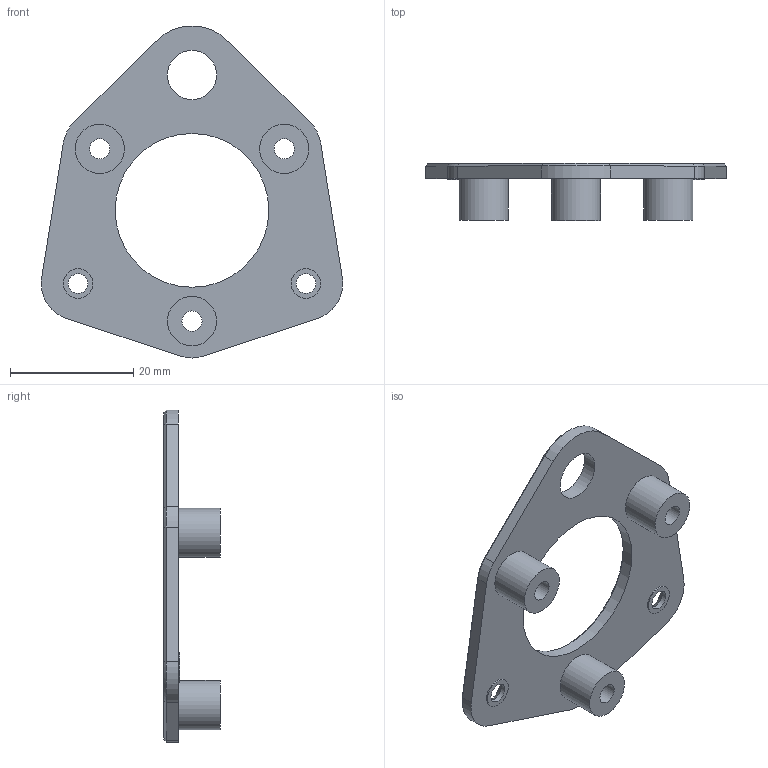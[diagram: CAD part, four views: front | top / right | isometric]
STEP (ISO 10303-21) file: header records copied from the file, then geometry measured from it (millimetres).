
FILE_DESCRIPTION(/* description */ (''),/* implementation_level */ '2;1');
FILE_NAME(/* name */ '\\192.168.3.8\kumagai\Develop\CAD\NakataOmni\DriveUnitR3\CarrierPlate.stp',/* time_stamp */ '2024-05-21T14:17:43+09:00',/* author */ ('kumagai'),/* organization */ (''),/* preprocessor_version */ 'ST-DEVELOPER v19',/* originating_system */ 'Autodesk Inventor 2023',/* authorisation */ '');
FILE_SCHEMA (('AUTOMOTIVE_DESIGN { 1 0 10303 214 3 1 1 }'));
Length unit declared in the file: millimetre
Products named in the file (1): CarrierPlate
Bounding box: 49.02 x 9.2 x 53.97 mm (x, y, z)
Volume: 3952.7 mm3; surface area: 4098.4 mm2
Topology: 1 solids, 1 shells, 49 faces, 108 edges, 66 vertices
Faces by surface type: plane 19, cylinder 18, cone 12
Full cylindrical faces by diameter (mm): 3.2 x2, 3.3 x3, 4.8 x2, 8 x4, 25 x1
Entity records: 1417 total; most frequent: DIRECTION 256, CARTESIAN_POINT 224, ORIENTED_EDGE 216, EDGE_CURVE 108, AXIS2_PLACEMENT_3D 98, EDGE_LOOP 68, VERTEX_POINT 66, LINE 60
